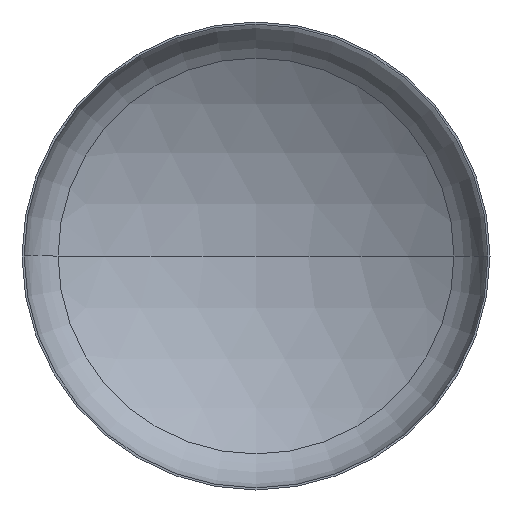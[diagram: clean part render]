
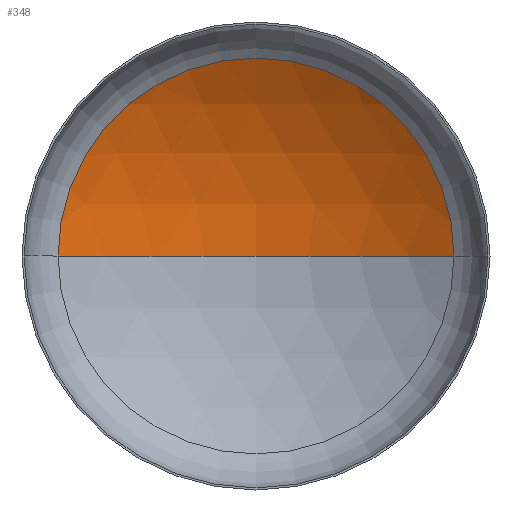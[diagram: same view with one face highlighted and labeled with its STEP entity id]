
A CAD part, front view. The second image highlights one B-rep face of the part: STEP entity #348.
In plain terms, the highlighted spherical face has radius 3040 mm.
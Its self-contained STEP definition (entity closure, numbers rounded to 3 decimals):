
#2 = AXIS2_PLACEMENT_3D ( 'NONE', #119, #94, #259 ) ;
#9 = CIRCLE ( 'NONE', #28, 3040. ) ;
#28 = AXIS2_PLACEMENT_3D ( 'NONE', #283, #102, #310 ) ;
#31 = AXIS2_PLACEMENT_3D ( 'NONE', #181, #182, #160 ) ;
#32 = AXIS2_PLACEMENT_3D ( 'NONE', #303, #205, #201 ) ;
#67 = EDGE_CURVE ( 'NONE', #387, #218, #365, .T. ) ;
#68 = EDGE_CURVE ( 'NONE', #209, #387, #239, .T. ) ;
#70 = EDGE_CURVE ( 'NONE', #209, #218, #9, .T. ) ;
#94 = DIRECTION ( 'NONE',  ( 0., 0., -1. ) ) ;
#102 = DIRECTION ( 'NONE',  ( 0., 0., 1. ) ) ;
#119 = CARTESIAN_POINT ( 'NONE',  ( 0., -2028.8, 0. ) ) ;
#143 = ORIENTED_EDGE ( 'NONE', *, *, #70, .F. ) ;
#160 = DIRECTION ( 'NONE',  ( -1., 0., 0. ) ) ;
#174 = ORIENTED_EDGE ( 'NONE', *, *, #67, .T. ) ;
#181 = CARTESIAN_POINT ( 'NONE',  ( 0., -2028.8, 0. ) ) ;
#182 = DIRECTION ( 'NONE',  ( 0., 0., -1. ) ) ;
#201 = DIRECTION ( 'NONE',  ( 1., 0., 0. ) ) ;
#205 = DIRECTION ( 'NONE',  ( 0., -1., 0. ) ) ;
#209 = VERTEX_POINT ( 'NONE', #243 ) ;
#218 = VERTEX_POINT ( 'NONE', #276 ) ;
#229 = ORIENTED_EDGE ( 'NONE', *, *, #68, .T. ) ;
#239 = CIRCLE ( 'NONE', #31, 3040. ) ;
#243 = CARTESIAN_POINT ( 'NONE',  ( 0., 1011.2, 0. ) ) ;
#256 = FACE_OUTER_BOUND ( 'NONE', #267, .T. ) ;
#259 = DIRECTION ( 'NONE',  ( -1., 0., 0. ) ) ;
#267 = EDGE_LOOP ( 'NONE', ( #143, #229, #174 ) ) ;
#269 = CARTESIAN_POINT ( 'NONE',  ( 1607.299, 551.547, 0. ) ) ;
#276 = CARTESIAN_POINT ( 'NONE',  ( -1607.299, 551.547, 0. ) ) ;
#283 = CARTESIAN_POINT ( 'NONE',  ( 0., -2028.8, 0. ) ) ;
#303 = CARTESIAN_POINT ( 'NONE',  ( 0., 551.547, 0. ) ) ;
#310 = DIRECTION ( 'NONE',  ( 1., 0., 0. ) ) ;
#330 = SPHERICAL_SURFACE ( 'NONE', #2, 3040. ) ;
#348 = ADVANCED_FACE ( 'NONE', ( #256 ), #330, .F. ) ;
#365 = CIRCLE ( 'NONE', #32, 1607.299 ) ;
#387 = VERTEX_POINT ( 'NONE', #269 ) ;
